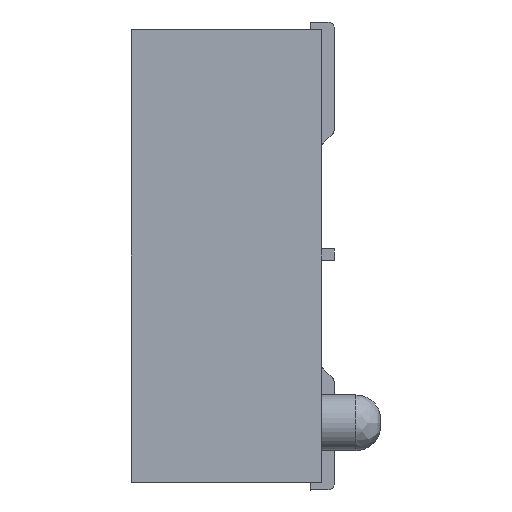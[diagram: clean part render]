
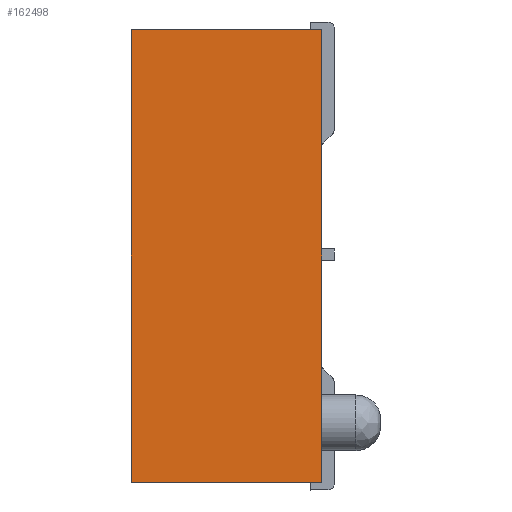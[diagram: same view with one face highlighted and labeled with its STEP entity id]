
A CAD part, left-side view. The second image highlights one B-rep face of the part: STEP entity #162498.
In plain terms, the highlighted planar face has unit normal (-1, 0, 0).
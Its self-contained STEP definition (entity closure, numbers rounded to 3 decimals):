
#5296 = VERTEX_POINT ( 'NONE', #81229 ) ;
#16438 = DIRECTION ( 'NONE',  ( 0., 0., 1. ) ) ;
#21286 = ORIENTED_EDGE ( 'NONE', *, *, #40849, .T. ) ;
#21935 = VECTOR ( 'NONE', #153421, 1000. ) ;
#40849 = EDGE_CURVE ( 'NONE', #5296, #185534, #183780, .T. ) ;
#46063 = EDGE_CURVE ( 'NONE', #190285, #5296, #99612, .T. ) ;
#47384 = CARTESIAN_POINT ( 'NONE',  ( 9.365, -3.05, -3.62 ) ) ;
#52615 = DIRECTION ( 'NONE',  ( 0., 0., 1. ) ) ;
#59995 = EDGE_LOOP ( 'NONE', ( #179914, #21286, #150233, #206645 ) ) ;
#67949 = VECTOR ( 'NONE', #216609, 1000. ) ;
#81229 = CARTESIAN_POINT ( 'NONE',  ( 9.365, -3.05, 3.62 ) ) ;
#97129 = CARTESIAN_POINT ( 'NONE',  ( 9.365, -3.05, 3.62 ) ) ;
#99612 = LINE ( 'NONE', #154595, #21935 ) ;
#101260 = DIRECTION ( 'NONE',  ( 0., 1., 0. ) ) ;
#105452 = DIRECTION ( 'NONE',  ( -1., 0., 0. ) ) ;
#110557 = VERTEX_POINT ( 'NONE', #161475 ) ;
#124501 = CARTESIAN_POINT ( 'NONE',  ( 9.365, -3.05, -3.62 ) ) ;
#134310 = CARTESIAN_POINT ( 'NONE',  ( 9.365, 0., 3.62 ) ) ;
#144084 = FACE_OUTER_BOUND ( 'NONE', #59995, .T. ) ;
#150233 = ORIENTED_EDGE ( 'NONE', *, *, #189142, .F. ) ;
#153421 = DIRECTION ( 'NONE',  ( 0., 0., 1. ) ) ;
#154595 = CARTESIAN_POINT ( 'NONE',  ( 9.365, -3.05, -3.62 ) ) ;
#158881 = VECTOR ( 'NONE', #52615, 1000. ) ;
#161475 = CARTESIAN_POINT ( 'NONE',  ( 9.365, 0., -3.62 ) ) ;
#162498 = ADVANCED_FACE ( 'NONE', ( #144084 ), #196708, .T. ) ;
#179914 = ORIENTED_EDGE ( 'NONE', *, *, #46063, .T. ) ;
#181350 = LINE ( 'NONE', #215296, #158881 ) ;
#181474 = CARTESIAN_POINT ( 'NONE',  ( 9.365, -3.05, 3.62 ) ) ;
#183561 = LINE ( 'NONE', #47384, #216133 ) ;
#183780 = LINE ( 'NONE', #97129, #67949 ) ;
#185534 = VERTEX_POINT ( 'NONE', #134310 ) ;
#189142 = EDGE_CURVE ( 'NONE', #110557, #185534, #181350, .T. ) ;
#190285 = VERTEX_POINT ( 'NONE', #124501 ) ;
#196666 = EDGE_CURVE ( 'NONE', #190285, #110557, #183561, .T. ) ;
#196708 = PLANE ( 'NONE',  #219294 ) ;
#206645 = ORIENTED_EDGE ( 'NONE', *, *, #196666, .F. ) ;
#215296 = CARTESIAN_POINT ( 'NONE',  ( 9.365, 0., -3.62 ) ) ;
#216133 = VECTOR ( 'NONE', #101260, 1000. ) ;
#216609 = DIRECTION ( 'NONE',  ( 0., 1., 0. ) ) ;
#219294 = AXIS2_PLACEMENT_3D ( 'NONE', #181474, #105452, #16438 ) ;
